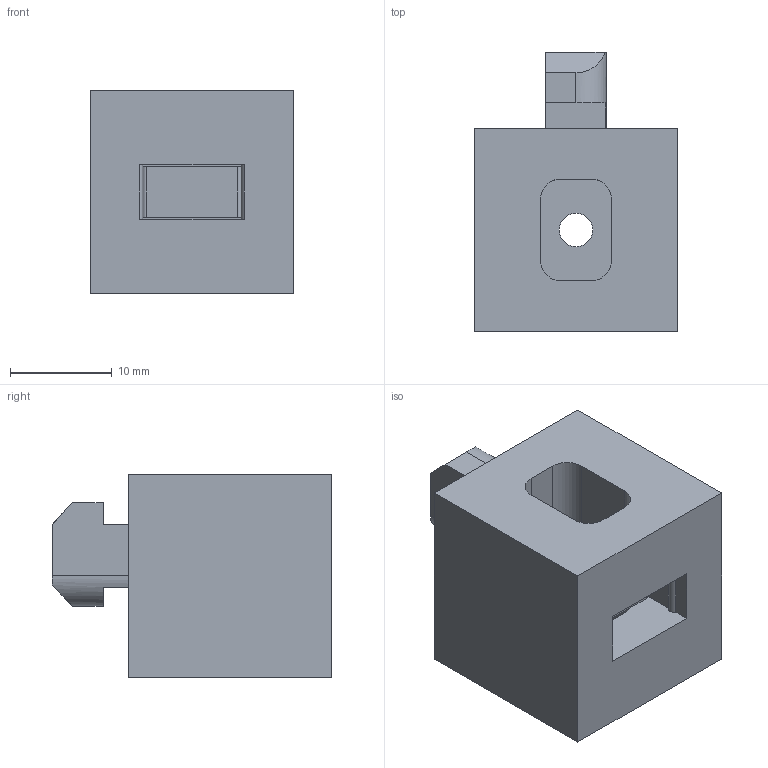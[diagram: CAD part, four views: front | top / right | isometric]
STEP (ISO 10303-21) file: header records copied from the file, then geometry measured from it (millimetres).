
FILE_DESCRIPTION (( 'STEP AP214' ), '1' );
FILE_NAME ('J3AP4.step', '2017-05-24T07:45:27', ( 'admin' ), ( '' ), 'SwSTEP 2.0', 'SolidWorks 2014', '' );
FILE_SCHEMA (( 'AUTOMOTIVE_DESIGN' ));
Length unit declared in the file: millimetre
Products named in the file (3): J3N4; J3APH; J3AP4
Assembly tree (2 placements, depth 2):
  J3AP4
    J3APH
    J3N4
Bounding box: 20 x 27.5 x 20 mm (x, y, z)
Volume: 6900.3 mm3; surface area: 3777.2 mm2
Topology: 2 solids, 2 shells, 57 faces, 153 edges, 102 vertices
Faces by surface type: plane 38, cylinder 19
Entity records: 1931 total; most frequent: CARTESIAN_POINT 323, DIRECTION 315, ORIENTED_EDGE 306, EDGE_CURVE 153, VECTOR 111, LINE 111, AXIS2_PLACEMENT_3D 102, VERTEX_POINT 102
